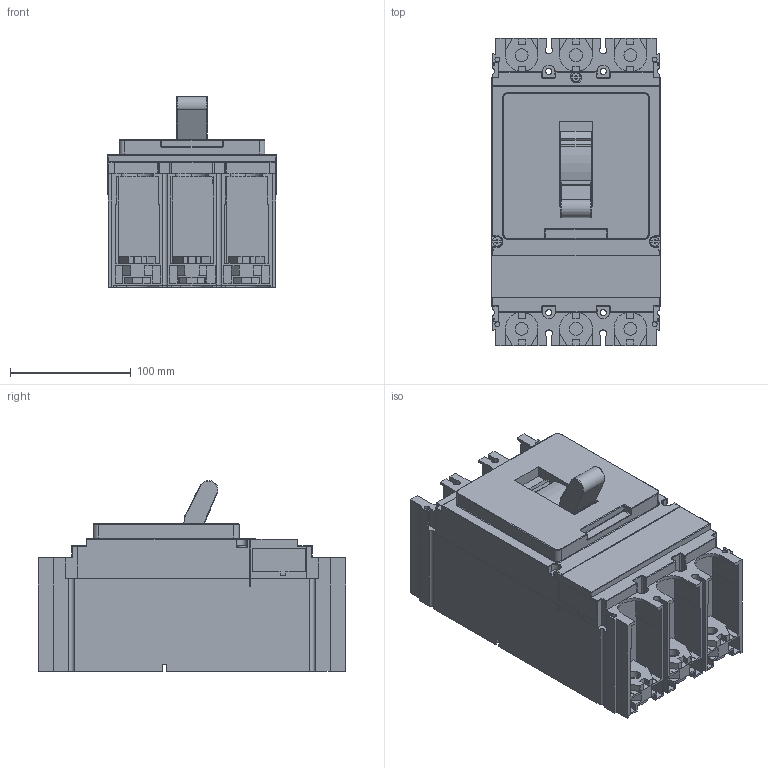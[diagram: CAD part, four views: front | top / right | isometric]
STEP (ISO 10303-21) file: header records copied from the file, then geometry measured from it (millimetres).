
FILE_DESCRIPTION((''),'2;1');
FILE_NAME('ASM0001_ASM','2020-12-15T11:44:59',('user-pc'),('Schneider-Electric'),'CREO PARAMETRIC BY PTC INC, 2018300','CREO PARAMETRIC BY PTC INC, 2018300','');
FILE_SCHEMA(('CONFIG_CONTROL_DESIGN'));
Length unit declared in the file: millimetre
Products named in the file (2): C63W32D630_PART; ASM0001_ASM
Assembly tree (1 placements, depth 2):
  ASM0001_ASM
    C63W32D630_PART
Bounding box: 139.7 x 254.9 x 158.16 mm (x, y, z)
Volume: 3371328.9 mm3; surface area: 242972.5 mm2
Topology: 1 solids, 1 shells, 998 faces, 2737 edges, 1760 vertices
Faces by surface type: plane 651, cylinder 286, torus 23, bspline 19, sphere 13, extrusion 6
Entity records: 33621 total; most frequent: CARTESIAN_POINT 8133, ORIENTED_EDGE 5474, DIRECTION 5051, EDGE_CURVE 2737, VECTOR 2119, LINE 2113, VERTEX_POINT 1760, AXIS2_PLACEMENT_3D 1466
